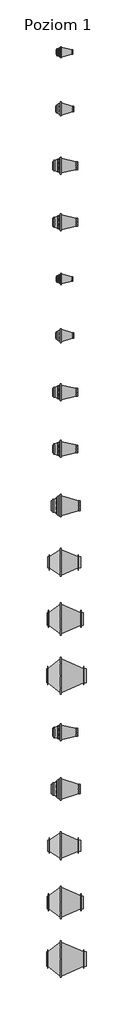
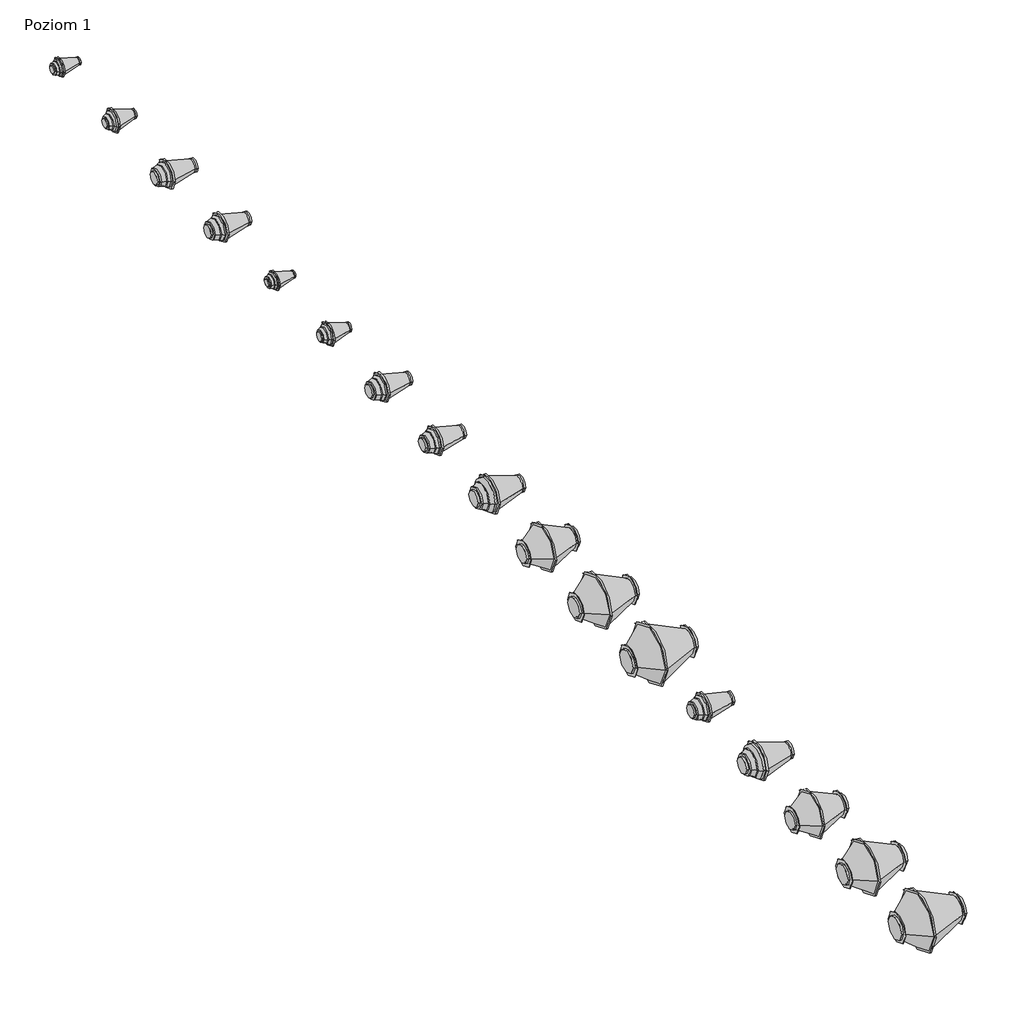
# One storey: 17 unitary equipment elements.
"""IFC4 building model written with IfcOpenShell, lengths in millimetres."""

from ifc_helpers import new_model, si_unit, origin, place, context, project, spatial, transform, mapped, element, save
from components import unitary_equipment_2_200_6ce64f90, unitary_equipment_2_250_42f7cbeb, unitary_equipment_2_315_db821d4b, unitary_equipment_2_350_30a01064, unitary_equipment_4_450_5cb35d34, unitary_equipment_4_500_b6eac10b, unitary_equipment_4_560_77a61e54, unitary_equipment_4_630_5e4d00b9

model = new_model("IFC4")

# Units and contexts
model_context = context("Model", 3, world=origin())
ifc_project = project(units=[si_unit("LENGTHUNIT", "METRE", prefix="MILLI")], contexts=[model_context])

# Site, building, storey
site = spatial("IfcSite", under=ifc_project)
building = spatial("IfcBuilding", under=site)
storey = spatial("IfcBuildingStorey", under=building, Name="Poziom 1", Elevation=0.0)

# Unitary equipment
placement = place(None, origin())
unitary_equipment_2_200_shape = unitary_equipment_2_200_6ce64f90(model_context)
element("IfcUnitaryEquipment", 1, ObjectType="VE-Wentylator-ParaForma-Harmann-VITT_L-Wywiewny : 2-200", at=placement, inside=storey, context=model_context, shape_type="MappedRepresentation", body=[
    mapped(unitary_equipment_2_200_shape, transform((4582.5, 3000.0, 0.0), x_axis=(1.0, 0.0, 0.0), y_axis=(0.0, 1.0, 0.0), z_axis=(0.0, 0.0, 1.0))),
])
unitary_equipment_2_250_shape = unitary_equipment_2_250_42f7cbeb(model_context)
element("IfcUnitaryEquipment", 2, ObjectType="VE-Wentylator-ParaForma-Harmann-VITT_L-Wywiewny : 2-250", at=placement, inside=storey, context=model_context, shape_type="MappedRepresentation", body=[
    mapped(unitary_equipment_2_250_shape, transform((4582.5, 1000.0, 0.0), x_axis=(1.0, 0.0, 0.0), y_axis=(0.0, 1.0, 0.0), z_axis=(0.0, 0.0, 1.0))),
])
unitary_equipment_2_315_shape = unitary_equipment_2_315_db821d4b(model_context)
element("IfcUnitaryEquipment", 3, ObjectType="VE-Wentylator-ParaForma-Harmann-VITT_L-Wywiewny : 2-315", at=placement, inside=storey, context=model_context, shape_type="MappedRepresentation", body=[
    mapped(unitary_equipment_2_315_shape, transform((4582.5, -1000.0, 0.0), x_axis=(1.0, 0.0, 0.0), y_axis=(0.0, 1.0, 0.0), z_axis=(0.0, 0.0, 1.0))),
])
unitary_equipment_2_350_shape = unitary_equipment_2_350_30a01064(model_context)
element("IfcUnitaryEquipment", 4, ObjectType="VE-Wentylator-ParaForma-Harmann-VITT_L-Wywiewny : 2-350", at=placement, inside=storey, context=model_context, shape_type="MappedRepresentation", body=[
    mapped(unitary_equipment_2_350_shape, transform((4582.5, -3000.0, 0.0), x_axis=(1.0, 0.0, 0.0), y_axis=(0.0, 1.0, 0.0), z_axis=(0.0, 0.0, 1.0))),
])
element("IfcUnitaryEquipment", 5, ObjectType="VE-Wentylator-ParaForma-Harmann-VITT_L-Wywiewny : 4-200", at=placement, inside=storey, context=model_context, shape_type="MappedRepresentation", body=[
    mapped(unitary_equipment_2_200_shape, transform((4582.5, -5000.0, 0.0), x_axis=(1.0, 0.0, 0.0), y_axis=(0.0, 1.0, 0.0), z_axis=(0.0, 0.0, 1.0))),
])
element("IfcUnitaryEquipment", 6, ObjectType="VE-Wentylator-ParaForma-Harmann-VITT_L-Wywiewny : 4-250", at=placement, inside=storey, context=model_context, shape_type="MappedRepresentation", body=[
    mapped(unitary_equipment_2_250_shape, transform((4582.5, -7000.0, 0.0), x_axis=(1.0, 0.0, 0.0), y_axis=(0.0, 1.0, 0.0), z_axis=(0.0, 0.0, 1.0))),
])
element("IfcUnitaryEquipment", 7, ObjectType="VE-Wentylator-ParaForma-Harmann-VITT_L-Wywiewny : 4-315", at=placement, inside=storey, context=model_context, shape_type="MappedRepresentation", body=[
    mapped(unitary_equipment_2_315_shape, transform((4582.5, -9000.0, 0.0), x_axis=(1.0, 0.0, 0.0), y_axis=(0.0, 1.0, 0.0), z_axis=(0.0, 0.0, 1.0))),
])
element("IfcUnitaryEquipment", 8, ObjectType="VE-Wentylator-ParaForma-Harmann-VITT_L-Wywiewny : 4-350", at=placement, inside=storey, context=model_context, shape_type="MappedRepresentation", body=[
    mapped(unitary_equipment_2_350_shape, transform((4582.5, -11000.0, 0.0), x_axis=(1.0, 0.0, 0.0), y_axis=(0.0, 1.0, 0.0), z_axis=(0.0, 0.0, 1.0))),
])
unitary_equipment_4_450_shape = unitary_equipment_4_450_5cb35d34(model_context)
element("IfcUnitaryEquipment", 9, ObjectType="VE-Wentylator-ParaForma-Harmann-VITT_L-Wywiewny : 4-450", at=placement, inside=storey, context=model_context, shape_type="MappedRepresentation", body=[
    mapped(unitary_equipment_4_450_shape, transform((4582.5, -13000.0, 0.0), x_axis=(1.0, 0.0, 0.0), y_axis=(0.0, 1.0, 0.0), z_axis=(0.0, 0.0, 1.0))),
])
unitary_equipment_4_500_shape = unitary_equipment_4_500_b6eac10b(model_context)
element("IfcUnitaryEquipment", 10, ObjectType="VE-Wentylator-ParaForma-Harmann-VITT_L-Wywiewny : 4-500", at=placement, inside=storey, context=model_context, shape_type="MappedRepresentation", body=[
    mapped(unitary_equipment_4_500_shape, transform((4582.5, -15000.0, 0.0), x_axis=(1.0, 0.0, 0.0), y_axis=(0.0, 1.0, 0.0), z_axis=(0.0, 0.0, 1.0))),
])
unitary_equipment_4_560_shape = unitary_equipment_4_560_77a61e54(model_context)
element("IfcUnitaryEquipment", 11, ObjectType="VE-Wentylator-ParaForma-Harmann-VITT_L-Wywiewny : 4-560", at=placement, inside=storey, context=model_context, shape_type="MappedRepresentation", body=[
    mapped(unitary_equipment_4_560_shape, transform((4582.5, -17000.0, 0.0), x_axis=(1.0, 0.0, 0.0), y_axis=(0.0, 1.0, 0.0), z_axis=(0.0, 0.0, 1.0))),
])
unitary_equipment_4_630_shape = unitary_equipment_4_630_5e4d00b9(model_context)
element("IfcUnitaryEquipment", 12, ObjectType="VE-Wentylator-ParaForma-Harmann-VITT_L-Wywiewny : 4-630", at=placement, inside=storey, context=model_context, shape_type="MappedRepresentation", body=[
    mapped(unitary_equipment_4_630_shape, transform((4582.5, -19000.0, 0.0), x_axis=(1.0, 0.0, 0.0), y_axis=(0.0, 1.0, 0.0), z_axis=(0.0, 0.0, 1.0))),
])
element("IfcUnitaryEquipment", 13, ObjectType="VE-Wentylator-ParaForma-Harmann-VITT_L-Wywiewny : 6-350", at=placement, inside=storey, context=model_context, shape_type="MappedRepresentation", body=[
    mapped(unitary_equipment_2_350_shape, transform((4582.5, -21000.0, 0.0), x_axis=(1.0, 0.0, 0.0), y_axis=(0.0, 1.0, 0.0), z_axis=(0.0, 0.0, 1.0))),
])
element("IfcUnitaryEquipment", 14, ObjectType="VE-Wentylator-ParaForma-Harmann-VITT_L-Wywiewny : 6-450", at=placement, inside=storey, context=model_context, shape_type="MappedRepresentation", body=[
    mapped(unitary_equipment_4_450_shape, transform((4582.5, -23000.0, 0.0), x_axis=(1.0, 0.0, 0.0), y_axis=(0.0, 1.0, 0.0), z_axis=(0.0, 0.0, 1.0))),
])
element("IfcUnitaryEquipment", 15, ObjectType="VE-Wentylator-ParaForma-Harmann-VITT_L-Wywiewny : 6-500", at=placement, inside=storey, context=model_context, shape_type="MappedRepresentation", body=[
    mapped(unitary_equipment_4_500_shape, transform((4582.5, -25000.0, 0.0), x_axis=(1.0, 0.0, 0.0), y_axis=(0.0, 1.0, 0.0), z_axis=(0.0, 0.0, 1.0))),
])
element("IfcUnitaryEquipment", 16, ObjectType="VE-Wentylator-ParaForma-Harmann-VITT_L-Wywiewny : 6-560", at=placement, inside=storey, context=model_context, shape_type="MappedRepresentation", body=[
    mapped(unitary_equipment_4_560_shape, transform((4582.5, -27000.0, 0.0), x_axis=(1.0, 0.0, 0.0), y_axis=(0.0, 1.0, 0.0), z_axis=(0.0, 0.0, 1.0))),
])
element("IfcUnitaryEquipment", 17, ObjectType="VE-Wentylator-ParaForma-Harmann-VITT_L-Wywiewny : 6-630", at=placement, inside=storey, context=model_context, shape_type="MappedRepresentation", body=[
    mapped(unitary_equipment_4_630_shape, transform((4582.5, -29000.0, 0.0), x_axis=(1.0, 0.0, 0.0), y_axis=(0.0, 1.0, 0.0), z_axis=(0.0, 0.0, 1.0))),
])

save(model, "model.ifc")
